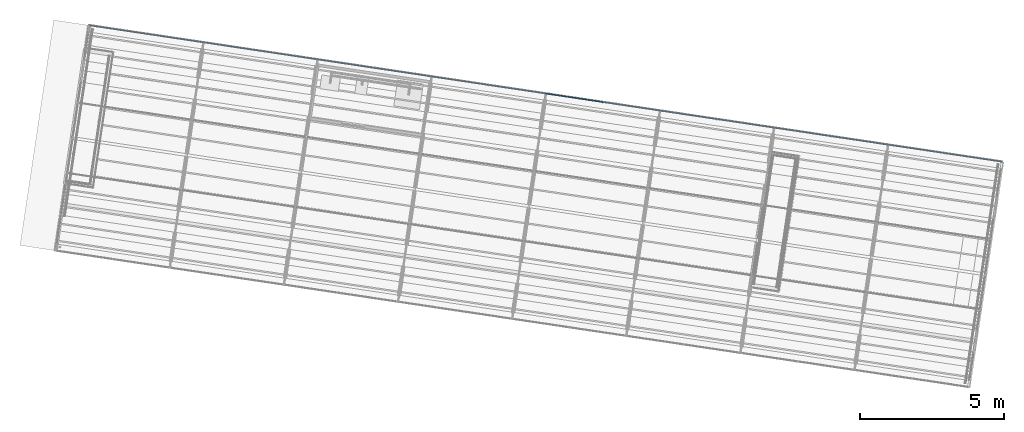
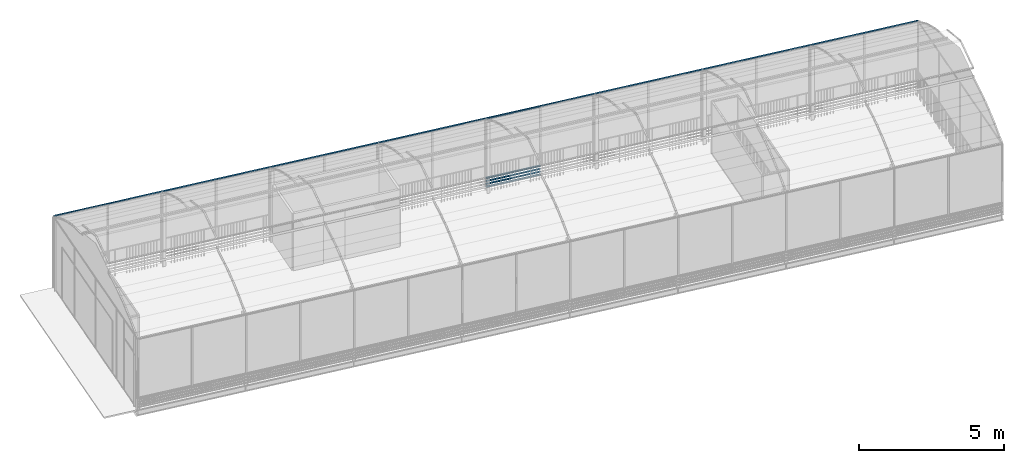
# One storey, part 15 of 34: 7 members, 1 element without a shape of its own.
"""IFC4 building model written with IfcOpenShell, lengths in metres."""

from ifc_helpers import new_model, si_unit, direction, frame, origin_with_axes, place, context, subcontext, project, spatial, rectangle, extrude, material, material_profile, profile_set, profile_usage, type_object, element, aggregate, save


model = new_model("IFC4")

# Units and contexts
model_context = context("Model", 3, precision=1e-05, world=origin_with_axes(), true_north=direction((0.0, 1.0)))
body_context = subcontext(model_context, "Body", "Model", "MODEL_VIEW")
ifc_project = project(units=[si_unit("VOLUMEUNIT", "CUBIC_METRE"), si_unit("LENGTHUNIT", "METRE"), si_unit("AREAUNIT", "SQUARE_METRE")], contexts=[model_context])

# Site, building, storey
site_placement = place(None, origin_with_axes())
site = spatial("IfcSite", under=ifc_project, at=site_placement, Name="Lares · Rua das Mercês · artigo 4771")
building_placement = place(site_placement, frame((12.0, 10.2, 13.9), z_axis=(0.0, 0.0, 1.0), x_axis=(0.989015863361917, -0.147809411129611, 0.0)))
building = spatial("IfcBuilding", under=site, at=building_placement, Name="Casa Sobreposta")
storey_placement = place(building_placement, frame((0.0, 0.0, 3.24), z_axis=(0.0, 0.0, 1.0), x_axis=(1.0, 0.0, 0.0)))
storey = spatial("IfcBuildingStorey", under=building, at=storey_placement, Name="01 · Jardim de inverno", Elevation=17.14)

# Members
ifc_material_1 = material(Name="Aço pintado / Stahl lackiert", Category="steel")
ifc_material_profile = material_profile(ifc_material_1, rectangle(XDim=0.035, YDim=0.035))
ifc_profile_set = profile_set([ifc_material_profile], Name="R0.035")
ifc_profile_usage_1 = profile_usage(ifc_profile_set)
member_type = type_object("IfcMemberType", Name="R0.035 / steel", PredefinedType="NOTDEFINED", material=ifc_profile_set)
member_1_placement = place(storey_placement, frame((16.0, 6.4, 0.5), z_axis=(1.0, 0.0, 0.0), x_axis=(0.0, -1.0, 0.0)))
element("IfcMember", 1, at=member_1_placement, inside=storey, type_object=member_type, material=ifc_profile_usage_1, Name="Estufa norte 9 · travessa", context=body_context, shape_type="SweptSolid", body=[
    extrude(rectangle(XDim=0.035, YDim=0.035), origin_with_axes(), (0.0, 0.0, 1.0), 2.0),
])
ifc_profile_usage_2 = profile_usage(ifc_profile_set)
member_2_placement = place(storey_placement, frame((16.0, 6.4, 2.98), z_axis=(1.0, 0.0, 0.0), x_axis=(0.0, -1.0, 0.0)))
element("IfcMember", 2, at=member_2_placement, inside=storey, type_object=member_type, material=ifc_profile_usage_2, Name="Estufa norte 9 · travessa", context=body_context, shape_type="SweptSolid", body=[
    extrude(rectangle(XDim=0.035, YDim=0.035), origin_with_axes(), (0.0, 0.0, 1.0), 2.0),
])
ifc_profile_usage_3 = profile_usage(ifc_profile_set)
member_3_placement = place(storey_placement, frame((16.0, 6.4, 0.12), z_axis=(1.0, 0.0, 0.0), x_axis=(0.0, -1.0, 0.0)))
element("IfcMember", 3, at=member_3_placement, inside=storey, type_object=member_type, material=ifc_profile_usage_3, Name="Entrada de ar norte 9", context=body_context, shape_type="SweptSolid", body=[
    extrude(rectangle(XDim=0.035, YDim=0.035), origin_with_axes(), (0.0, 0.0, 1.0), 2.0),
])
ifc_profile_usage_4 = profile_usage(ifc_profile_set)
member_4_placement = place(storey_placement, frame((16.0, 6.4, 0.24), z_axis=(1.0, 0.0, 0.0), x_axis=(0.0, -1.0, 0.0)))
element("IfcMember", 4, at=member_4_placement, inside=storey, type_object=member_type, material=ifc_profile_usage_4, Name="Entrada de ar norte 9", context=body_context, shape_type="SweptSolid", body=[
    extrude(rectangle(XDim=0.035, YDim=0.035), origin_with_axes(), (0.0, 0.0, 1.0), 2.0),
])
ifc_profile_usage_5 = profile_usage(ifc_profile_set)
member_5_placement = place(storey_placement, frame((16.0, 6.4, 0.36), z_axis=(1.0, 0.0, 0.0), x_axis=(0.0, -1.0, 0.0)))
element("IfcMember", 5, at=member_5_placement, inside=storey, type_object=member_type, material=ifc_profile_usage_5, Name="Entrada de ar norte 9", context=body_context, shape_type="SweptSolid", body=[
    extrude(rectangle(XDim=0.035, YDim=0.035), origin_with_axes(), (0.0, 0.0, 1.0), 2.0),
])
ifc_profile_usage_6 = profile_usage(ifc_profile_set)
member_6_placement = place(storey_placement, frame((16.0, 6.4, 0.48), z_axis=(1.0, 0.0, 0.0), x_axis=(0.0, -1.0, 0.0)))
element("IfcMember", 6, at=member_6_placement, inside=storey, type_object=member_type, material=ifc_profile_usage_6, Name="Entrada de ar norte 9", context=body_context, shape_type="SweptSolid", body=[
    extrude(rectangle(XDim=0.035, YDim=0.035), origin_with_axes(), (0.0, 0.0, 1.0), 2.0),
])

# Roof, member
ifc_material_2 = material(Name="Vidro / Normalglas", Category="glass")
roof_placement = place(storey_placement, frame((0.0, 0.0, -3.24), z_axis=(0.0, 0.0, 1.0), x_axis=(1.0, 0.0, 0.0)))
roof = element("IfcRoof", 7, at=roof_placement, inside=storey, material=ifc_material_2, Name="Cobertura translúcida da estufa", PredefinedType="BARREL_ROOF")
ifc_profile_usage_7 = profile_usage(ifc_profile_set)
member_7_placement = place(roof_placement, frame((0.0, 6.39999999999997, 6.23430000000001), z_axis=(1.0, 0.0, 0.0), x_axis=(0.0, -1.0, 0.0)))
member_7 = element("IfcMember", 8, at=member_7_placement, type_object=member_type, material=ifc_profile_usage_7, Name="Terça da estufa", context=body_context, shape_type="SweptSolid", body=[
    extrude(rectangle(XDim=0.035, YDim=0.035), origin_with_axes(), (0.0, 0.0, 1.0), 32.0),
])
aggregate(roof, [member_7])

save(model, "model.ifc")
